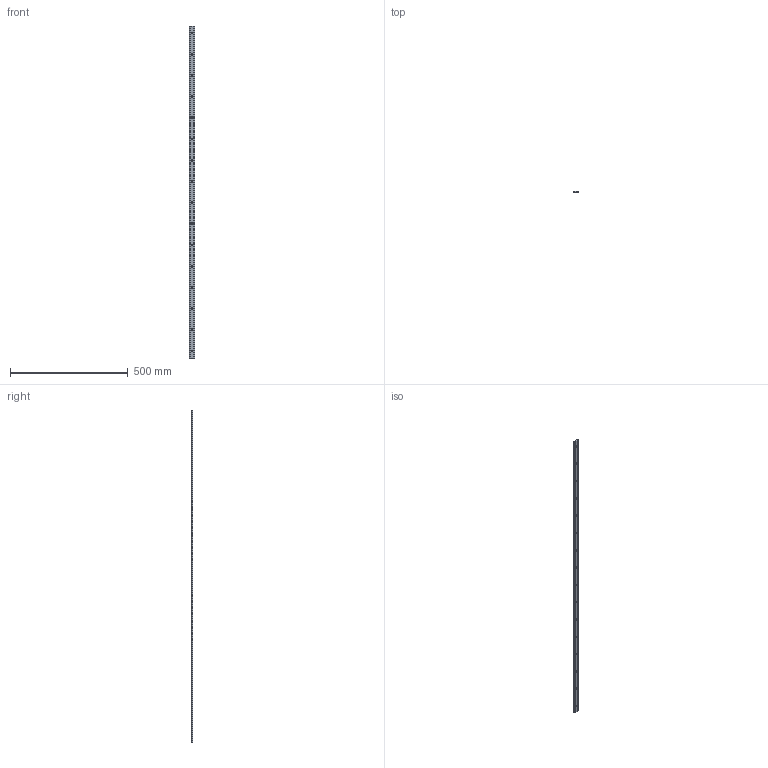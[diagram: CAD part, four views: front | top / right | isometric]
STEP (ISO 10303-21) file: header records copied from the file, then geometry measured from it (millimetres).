
FILE_DESCRIPTION(('STEP AP203'),'1');
FILE_NAME('//192.168.1.1/share/s-4 技術開発/s-4-4_CAD/s-4-4-6_見直し、確認済み/014 修正済み(済)/GF_TOP/GF-25P-1410.step','2022-03-14T00:45:10',(' '),(' '),'Spatial InterOp 3D',' ',' ');
FILE_SCHEMA(('CONFIG_CONTROL_DESIGN'));
Length unit declared in the file: millimetre
Products named in the file (1): 1
Bounding box: 24.94 x 4.78 x 1410 mm (x, y, z)
Volume: 146489.3 mm3; surface area: 77855.1 mm2
Topology: 1 solids, 1 shells, 66 faces, 176 edges, 112 vertices
Faces by surface type: cone 32, cylinder 20, plane 14
Full cylindrical faces by diameter (mm): 7 x16
Entity records: 1788 total; most frequent: DIRECTION 318, CARTESIAN_POINT 275, ORIENTED_EDGE 224, EDGE_LOOP 146, AXIS2_PLACEMENT_3D 139, EDGE_CURVE 112, VERTEX_POINT 96, FACE_OUTER_BOUND 82
